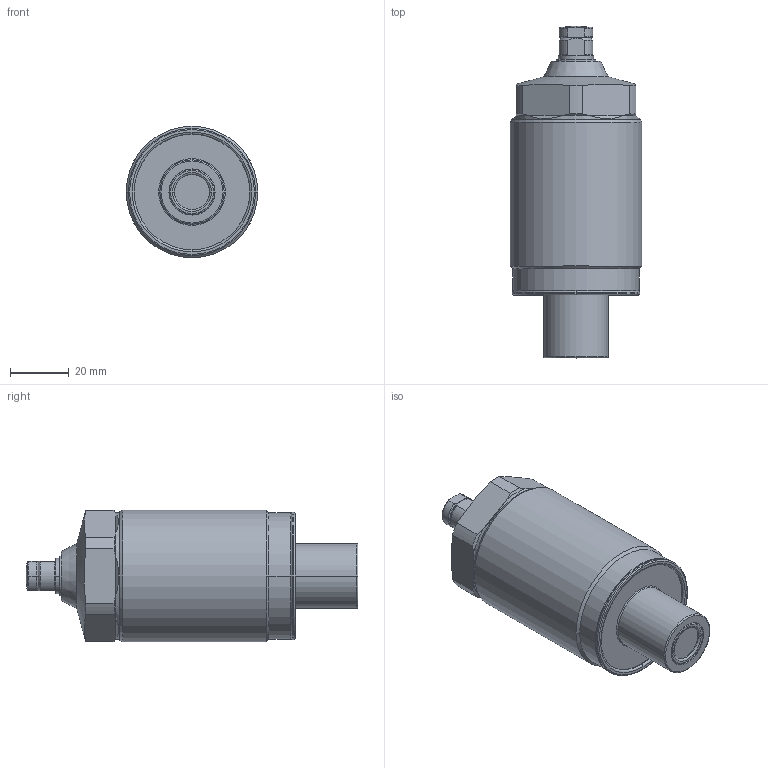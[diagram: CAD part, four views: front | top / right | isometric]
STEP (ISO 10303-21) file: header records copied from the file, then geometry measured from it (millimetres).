
FILE_DESCRIPTION(/* description */ (''),/* implementation_level */ '2;1');
FILE_NAME(/* name */ 'TNL45-Q.stp',/* time_stamp */ '2025-01-09T09:23:49+08:00',/* author */ (''),/* organization */ (''),/* preprocessor_version */ 'ST-DEVELOPER v16.7',/* originating_system */ 'SIEMENS PLM Software NX 12.0',/* authorisation */ '');
FILE_SCHEMA (('AUTOMOTIVE_DESIGN { 1 0 10303 214 3 1 1 1 }'));
Length unit declared in the file: millimetre
Products named in the file (7): XLD-M8_contactbolt736; XLD-M8_Oring737; TNL45-Q-3; TNL45-Q-2; TNL45-Q-1; TNL45-Q-4; TNL45-Q_stp
Assembly tree (6 placements, depth 3):
  TNL45-Q_stp
    TNL45-Q-1
    TNL45-Q-2
    TNL45-Q-3
    TNL45-Q-4
      XLD-M8_Oring737
      XLD-M8_contactbolt736
Bounding box: 45 x 113.5 x 45 mm (x, y, z)
Volume: 124455.6 mm3; surface area: 17874.1 mm2
Topology: 5 solids, 5 shells, 148 faces, 320 edges, 192 vertices
Faces by surface type: cylinder 44, torus 42, plane 37, cone 23, sphere 2
Full cylindrical faces by diameter (mm): 43.2 x1, 45 x1
Entity records: 4352 total; most frequent: CARTESIAN_POINT 870, DIRECTION 798, ORIENTED_EDGE 630, AXIS2_PLACEMENT_3D 360, EDGE_CURVE 315, CIRCLE 199, VERTEX_POINT 192, EDGE_LOOP 169
